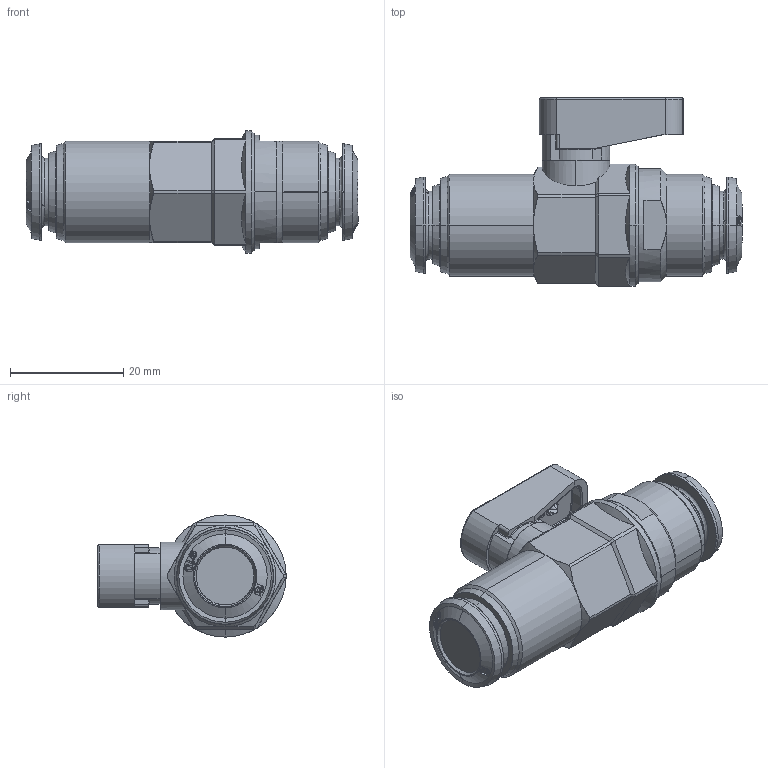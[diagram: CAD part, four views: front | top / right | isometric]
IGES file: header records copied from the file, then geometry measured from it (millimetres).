
Start section: SolidWorks IGES file using analytic representation for surfaces
Global section: file name: K:\Disegni Esecutivi\GHILUX\ASSIEMI_GHILUX\6560\ASSIEMI_.IGES_6560\6560000075A.IGS; native system: SolidWorks 2009; preprocessor: SolidWorks 2009; author: cad05; date: 100226.133342; units: millimetre
Bounding box: 58.7 x 33.3 x 21.6 mm (x, y, z)
Surface area: 6815.1 mm2 (no closed solid volume)
Topology: 0 solids, 0 shells, 689 faces, 6449 edges, 6445 vertices
Faces by surface type: bspline 489, revolution 200
